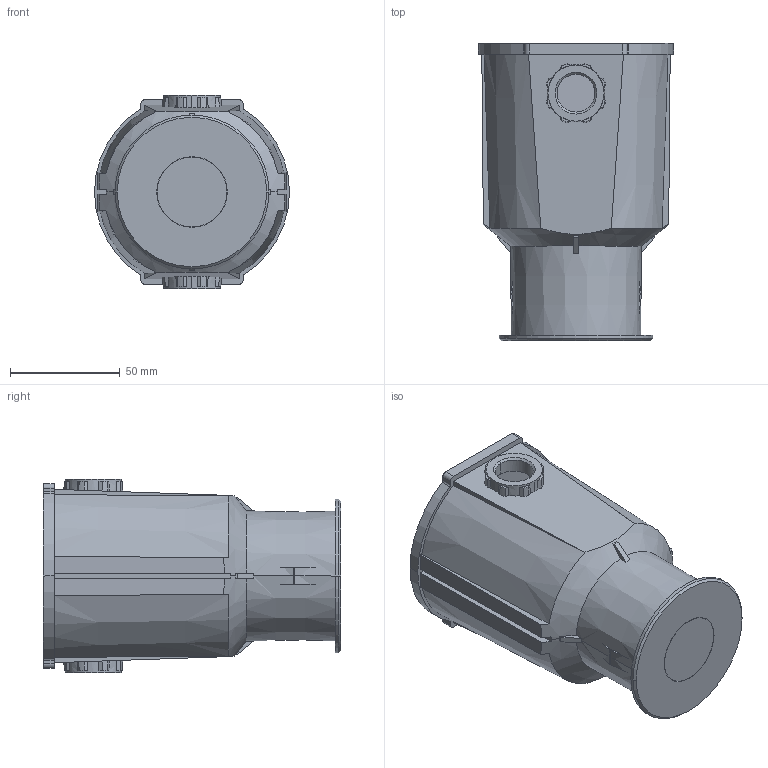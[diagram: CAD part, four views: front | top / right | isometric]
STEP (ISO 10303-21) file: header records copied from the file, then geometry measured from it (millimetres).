
FILE_DESCRIPTION((''),'2;1');
FILE_NAME('ASM0001_ASM','2019-07-20T',('Administrator'),(''),'PRO/ENGINEER BY PARAMETRIC TECHNOLOGY CORPORATION, 2014000','PRO/ENGINEER BY PARAMETRIC TECHNOLOGY CORPORATION, 2014000','');
FILE_SCHEMA(('CONFIG_CONTROL_DESIGN'));
Length unit declared in the file: millimetre
Products named in the file (17): 2I_; HOUGAI; MIANGAI; KAHUANG; MUZUHE; 12A_1_114; PRT0001; 2I-0; 0-RING; 2I-1; YATAO; BOLI-0; R7; 2XA-____; 2XA-B___; 4A_____ASM; ASM0001_ASM
Assembly tree (16 placements, depth 3):
  ASM0001_ASM
    2I_
    HOUGAI
    MIANGAI
    KAHUANG
    MUZUHE
    12A_1_114
    PRT0001
    2I-0
    0-RING
    2I-1
    YATAO
    BOLI-0
    R7
    4A_____ASM
      2XA-____
      2XA-B___
Bounding box: 88.7 x 135.2 x 88 mm (x, y, z)
Volume: 222506.5 mm3; surface area: 153245.8 mm2
Topology: 15 solids, 16 shells, 656 faces, 1679 edges, 1090 vertices
Faces by surface type: plane 275, cylinder 233, cone 110, bspline 28, torus 10
Entity records: 22011 total; most frequent: CARTESIAN_POINT 5655, DIRECTION 3395, ORIENTED_EDGE 3358, EDGE_CURVE 1679, AXIS2_PLACEMENT_3D 1333, VERTEX_POINT 1090, EDGE_LOOP 735, VECTOR 729
